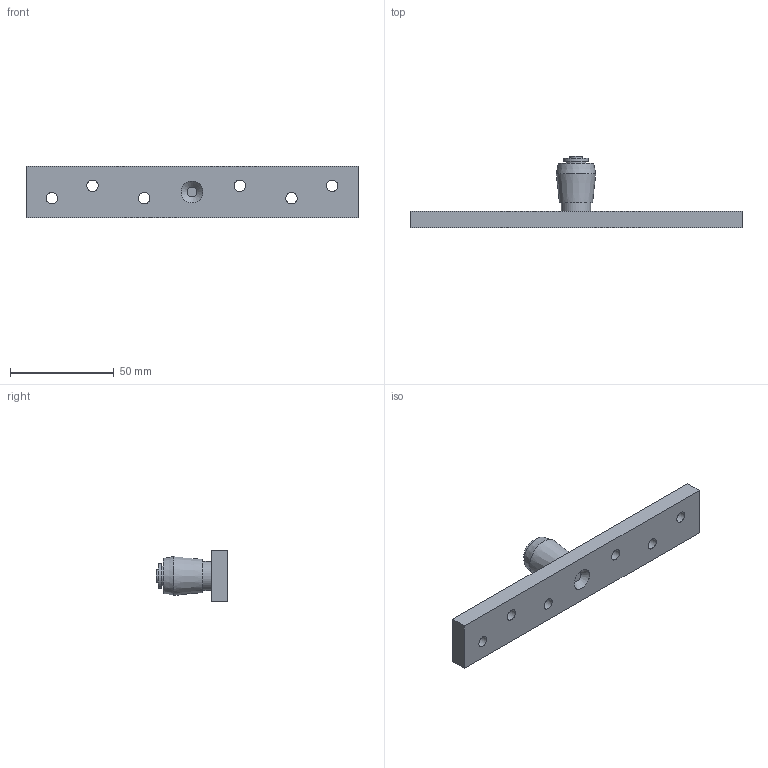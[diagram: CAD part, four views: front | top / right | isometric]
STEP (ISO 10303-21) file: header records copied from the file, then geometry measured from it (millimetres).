
FILE_DESCRIPTION(/* description */ ('Bodenfuehrungsrolle N19'),/* implementation_level */ '2;1');
FILE_NAME(/* name */ 'Q:\sge-ma\Produktmanagement-STB\STB\Workspace\stp\010336291.stp',/* time_stamp */ '2016-07-19T13:17:50+02:00',/* author */ ('avschreier'),/* organization */ (''),/* preprocessor_version */ 'ST-DEVELOPER v16.1',/* originating_system */ 'Autodesk Inventor 2016',/* authorisation */ '');
FILE_SCHEMA (('AUTOMOTIVE_DESIGN { 1 0 10303 214 3 1 1 }'));
Length unit declared in the file: millimetre
Products named in the file (6): 010336291_Schweißnähte; 337000146; 337000169; 337000170; DIN_EN_ISO_7090-6,4_en; 010336291
Assembly tree (5 placements, depth 2):
  010336291
    010336291_Schweißnähte
    337000146
    337000169
    337000170
    DIN_EN_ISO_7090-6,4_en
Bounding box: 160 x 34.5 x 25 mm (x, y, z)
Volume: 35748.4 mm3; surface area: 15215.5 mm2
Topology: 5 solids, 5 shells, 40 faces, 78 edges, 50 vertices
Faces by surface type: plane 16, cylinder 15, cone 9
Full cylindrical faces by diameter (mm): 5.5 x6, 6 x1, 6.4 x1, 9.5 x1, 9.7 x1, 10.3 x1, 10.5 x2, 12 x1, 14 x1
Entity records: 1105 total; most frequent: DIRECTION 198, CARTESIAN_POINT 155, ORIENTED_EDGE 108, AXIS2_PLACEMENT_3D 93, EDGE_LOOP 86, EDGE_CURVE 54, VERTEX_POINT 50, FACE_BOUND 46
